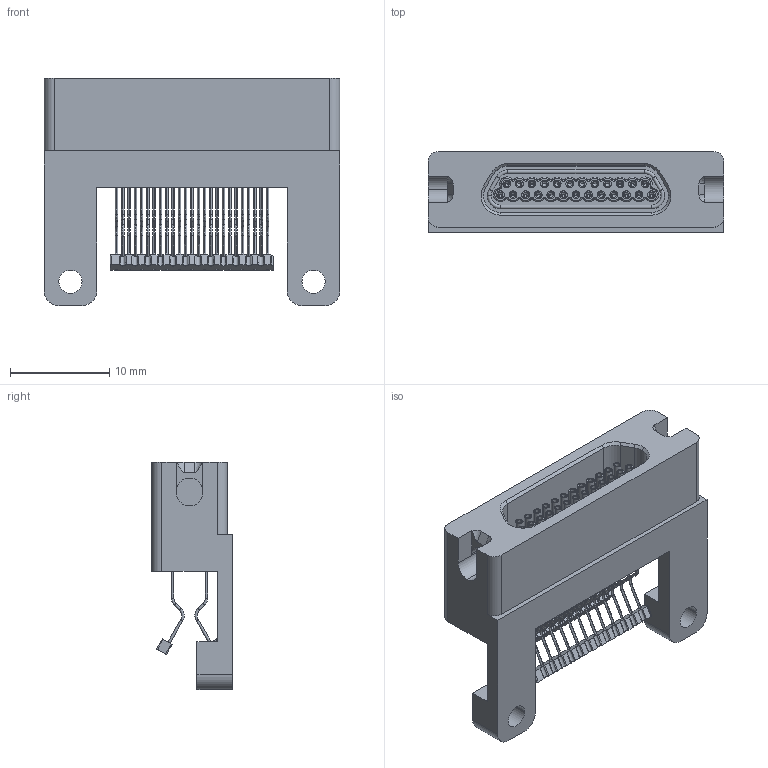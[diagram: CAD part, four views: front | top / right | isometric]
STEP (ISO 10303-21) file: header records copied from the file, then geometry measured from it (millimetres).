
FILE_DESCRIPTION (( 'STEP AP214' ), '1' );
FILE_NAME ('A99850-025 REV A.STEP', '2017-02-22T22:59:03', ( '' ), ( '' ), 'SwSTEP 2.0', 'SolidWorks 2016', '' );
FILE_SCHEMA (( 'AUTOMOTIVE_DESIGN' ));
Products named in the file (1): A99850-025 REV A
Bounding box: 29.84 x 8.14 x 22.91 mm (x, y, z)
Volume: 2423.6 mm3; surface area: 3129.2 mm2
Topology: 1 solids, 8 shells, 1481 faces, 3662 edges, 2235 vertices
Faces by surface type: cylinder 636, plane 524, torus 208, cone 59, bspline 54
Entity records: 46380 total; most frequent: CARTESIAN_POINT 10468, DIRECTION 8056, ORIENTED_EDGE 7212, EDGE_CURVE 3606, AXIS2_PLACEMENT_3D 3133, VERTEX_POINT 2235, LINE 1790, VECTOR 1790
